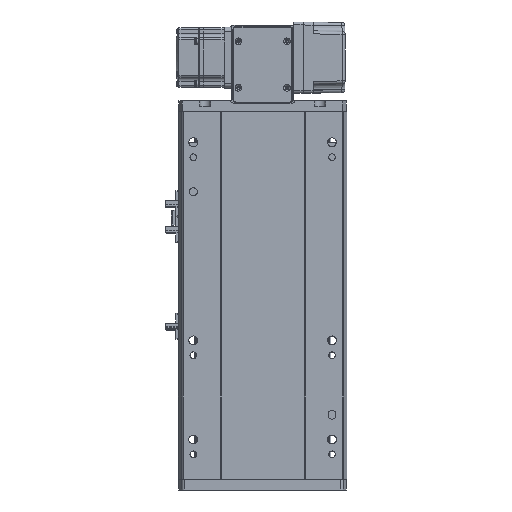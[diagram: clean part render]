
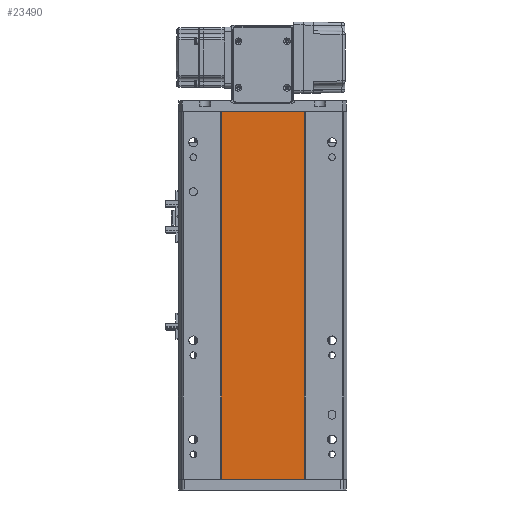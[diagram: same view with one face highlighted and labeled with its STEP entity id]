
A CAD part, front view. The second image highlights one B-rep face of the part: STEP entity #23490.
In plain terms, the highlighted planar face has unit normal (0, -1, 0).
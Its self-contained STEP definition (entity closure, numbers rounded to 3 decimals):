
#314 = ORIENTED_EDGE ( 'NONE', *, *, #15847, .T. ) ;
#1044 = EDGE_LOOP ( 'NONE', ( #3779, #50473, #52840, #314 ) ) ;
#2690 = PLANE ( 'NONE',  #58311 ) ;
#3347 = VERTEX_POINT ( 'NONE', #20926 ) ;
#3389 = CARTESIAN_POINT ( 'NONE',  ( 41.793, 0.998, 371. ) ) ;
#3779 = ORIENTED_EDGE ( 'NONE', *, *, #43890, .T. ) ;
#4205 = DIRECTION ( 'NONE',  ( 1., 0., 0. ) ) ;
#5363 = VECTOR ( 'NONE', #6551, 1000. ) ;
#6551 = DIRECTION ( 'NONE',  ( 0., 0., -1. ) ) ;
#12160 = DIRECTION ( 'NONE',  ( 0., 1., 0. ) ) ;
#12573 = EDGE_CURVE ( 'NONE', #18361, #56914, #45719, .T. ) ;
#13703 = VECTOR ( 'NONE', #36187, 1000. ) ;
#14091 = CARTESIAN_POINT ( 'NONE',  ( 0., 0.999, 371. ) ) ;
#15801 = CARTESIAN_POINT ( 'NONE',  ( 41.793, 0.998, 371. ) ) ;
#15847 = EDGE_CURVE ( 'NONE', #18361, #3347, #35419, .T. ) ;
#18361 = VERTEX_POINT ( 'NONE', #37273 ) ;
#20926 = CARTESIAN_POINT ( 'NONE',  ( -41.791, 1., 0. ) ) ;
#23490 = ADVANCED_FACE ( 'NONE', ( #41083 ), #2690, .F. ) ;
#25953 = VECTOR ( 'NONE', #4205, 1000. ) ;
#33321 = DIRECTION ( 'NONE',  ( 1., 0., 0. ) ) ;
#34963 = VERTEX_POINT ( 'NONE', #50899 ) ;
#35419 = LINE ( 'NONE', #58563, #5363 ) ;
#35499 = CARTESIAN_POINT ( 'NONE',  ( 0., 0.999, 371. ) ) ;
#35668 = LINE ( 'NONE', #3389, #13703 ) ;
#36187 = DIRECTION ( 'NONE',  ( 0., 0., -1. ) ) ;
#37273 = CARTESIAN_POINT ( 'NONE',  ( -41.791, 1., 371. ) ) ;
#41083 = FACE_OUTER_BOUND ( 'NONE', #1044, .T. ) ;
#43890 = EDGE_CURVE ( 'NONE', #3347, #34963, #48790, .T. ) ;
#45719 = LINE ( 'NONE', #14091, #25953 ) ;
#48790 = LINE ( 'NONE', #60522, #59789 ) ;
#49170 = DIRECTION ( 'NONE',  ( -1., 0., 0. ) ) ;
#50473 = ORIENTED_EDGE ( 'NONE', *, *, #59838, .F. ) ;
#50899 = CARTESIAN_POINT ( 'NONE',  ( 41.793, 0.998, 0. ) ) ;
#52840 = ORIENTED_EDGE ( 'NONE', *, *, #12573, .F. ) ;
#56914 = VERTEX_POINT ( 'NONE', #15801 ) ;
#58311 = AXIS2_PLACEMENT_3D ( 'NONE', #35499, #12160, #49170 ) ;
#58563 = CARTESIAN_POINT ( 'NONE',  ( -41.791, 1., 371. ) ) ;
#59789 = VECTOR ( 'NONE', #33321, 1000. ) ;
#59838 = EDGE_CURVE ( 'NONE', #56914, #34963, #35668, .T. ) ;
#60522 = CARTESIAN_POINT ( 'NONE',  ( 0., 0.999, 0. ) ) ;
